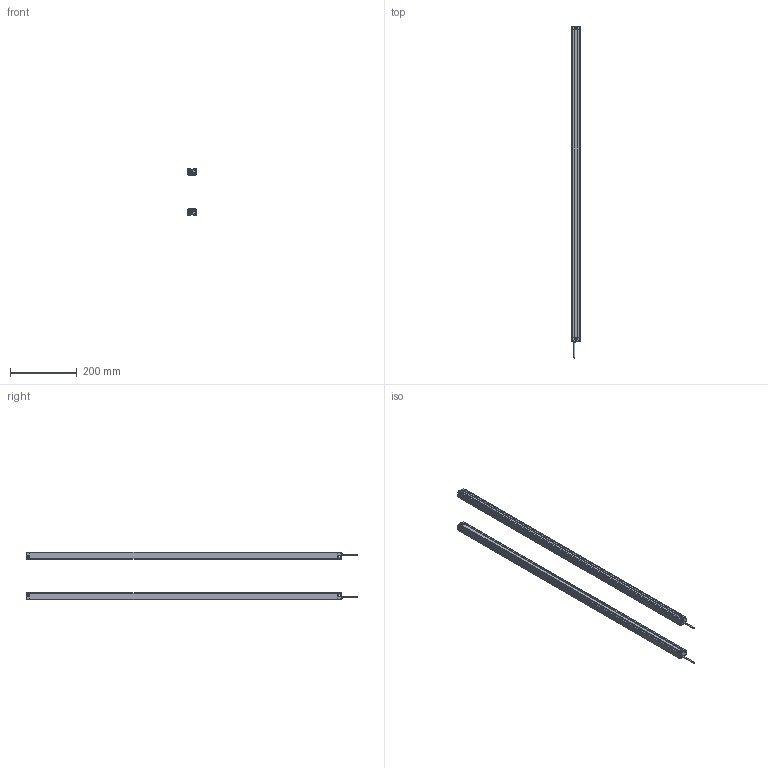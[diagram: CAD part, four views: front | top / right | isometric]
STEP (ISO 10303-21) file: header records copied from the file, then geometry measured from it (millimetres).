
FILE_DESCRIPTION (( 'STEP AP214' ), '1' );
FILE_NAME ('MTC4620.STEP', '2022-08-02T09:05:16', ( '' ), ( '' ), 'SwSTEP 2.0', 'SolidWorks 2018', '' );
FILE_SCHEMA (( 'AUTOMOTIVE_DESIGN' ));
Length unit declared in the file: millimetre
Products named in the file (5): P01^MTC; MTC waike^MTC; 噩砃P02^MTC; P02^MTC; MTC4620
Assembly tree (6 placements, depth 2):
  MTC4620
    MTC waike^MTC  x2
    P01^MTC  x2
    P02^MTC
    噩砃P02^MTC
Bounding box: 25 x 992 x 141.4 mm (x, y, z)
Volume: 311232.8 mm3; surface area: 430275.4 mm2
Topology: 8 solids, 8 shells, 480 faces, 1396 edges, 924 vertices
Faces by surface type: plane 272, cylinder 208
Entity records: 10886 total; most frequent: DIRECTION 1881, CARTESIAN_POINT 1878, ORIENTED_EDGE 1846, EDGE_CURVE 923, AXIS2_PLACEMENT_3D 637, VERTEX_POINT 610, VECTOR 607, LINE 607
